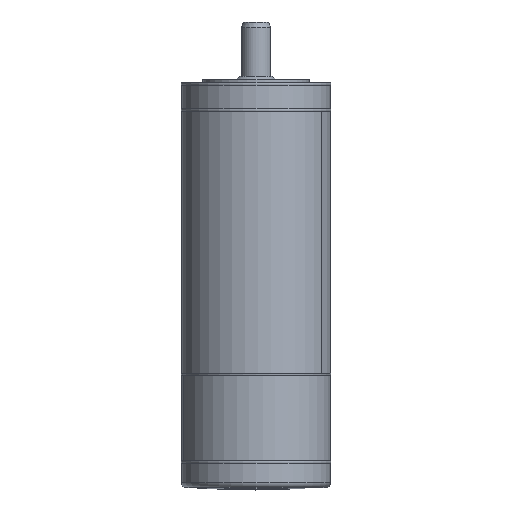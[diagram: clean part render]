
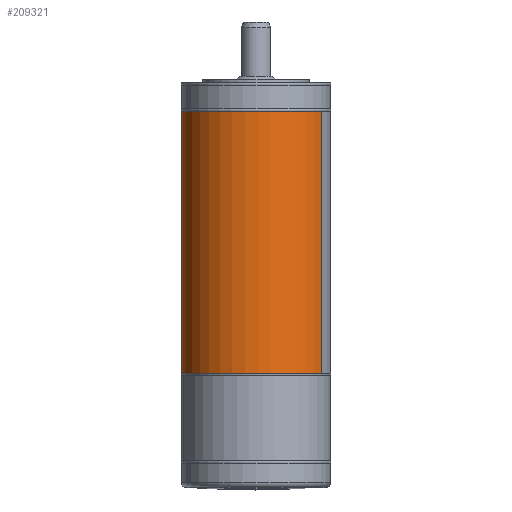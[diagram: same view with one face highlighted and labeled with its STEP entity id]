
A CAD part, front view. The second image highlights one B-rep face of the part: STEP entity #209321.
In plain terms, the highlighted cylindrical face has radius 49.06 mm (diameter 98.12 mm), a partial arc.
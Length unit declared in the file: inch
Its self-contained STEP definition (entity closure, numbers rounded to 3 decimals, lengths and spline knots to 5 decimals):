
#5126 = ORIENTED_EDGE ( 'NONE', *, *, #156324, .F. ) ;
#11844 = DIRECTION ( 'NONE',  ( 0.877, -0.481, 0. ) ) ;
#20081 = CARTESIAN_POINT ( 'NONE',  ( 0., 0., -7.512 ) ) ;
#22689 = VERTEX_POINT ( 'NONE', #73294 ) ;
#26532 = EDGE_CURVE ( 'NONE', #121000, #22689, #280138, .T. ) ;
#27999 = CARTESIAN_POINT ( 'NONE',  ( -1.69386, 0.92819, -7.512 ) ) ;
#28893 = ORIENTED_EDGE ( 'NONE', *, *, #88903, .T. ) ;
#38433 = VERTEX_POINT ( 'NONE', #51289 ) ;
#51289 = CARTESIAN_POINT ( 'NONE',  ( 1.69386, -0.92819, -7.512 ) ) ;
#60399 = EDGE_LOOP ( 'NONE', ( #150035, #28893, #102622, #5126 ) ) ;
#64093 = AXIS2_PLACEMENT_3D ( 'NONE', #96828, #235250, #11844 ) ;
#73294 = CARTESIAN_POINT ( 'NONE',  ( -1.69386, 0.92819, -0.728 ) ) ;
#76156 = CARTESIAN_POINT ( 'NONE',  ( -1.69386, 0.92819, 0.59277 ) ) ;
#76235 = VECTOR ( 'NONE', #79287, 39.37008 ) ;
#79287 = DIRECTION ( 'NONE',  ( 0., 0., 1. ) ) ;
#88903 = EDGE_CURVE ( 'NONE', #121000, #38433, #251996, .T. ) ;
#96828 = CARTESIAN_POINT ( 'NONE',  ( 0., 0., 0.59277 ) ) ;
#97267 = LINE ( 'NONE', #188069, #76235 ) ;
#102622 = ORIENTED_EDGE ( 'NONE', *, *, #273151, .T. ) ;
#110212 = CIRCLE ( 'NONE', #119836, 1.9315 ) ;
#119836 = AXIS2_PLACEMENT_3D ( 'NONE', #290141, #238158, #288660 ) ;
#121000 = VERTEX_POINT ( 'NONE', #27999 ) ;
#150035 = ORIENTED_EDGE ( 'NONE', *, *, #26532, .F. ) ;
#156324 = EDGE_CURVE ( 'NONE', #22689, #241880, #110212, .T. ) ;
#168221 = CYLINDRICAL_SURFACE ( 'NONE', #64093, 1.9315 ) ;
#168441 = DIRECTION ( 'NONE',  ( 0., 0., 1. ) ) ;
#188069 = CARTESIAN_POINT ( 'NONE',  ( 1.69386, -0.92819, 0.59277 ) ) ;
#209321 = ADVANCED_FACE ( 'NONE', ( #232302 ), #168221, .T. ) ;
#232302 = FACE_OUTER_BOUND ( 'NONE', #60399, .T. ) ;
#235250 = DIRECTION ( 'NONE',  ( 0., 0., 1. ) ) ;
#238158 = DIRECTION ( 'NONE',  ( 0., 0., 1. ) ) ;
#240736 = VECTOR ( 'NONE', #168441, 39.37008 ) ;
#241880 = VERTEX_POINT ( 'NONE', #257308 ) ;
#247089 = AXIS2_PLACEMENT_3D ( 'NONE', #20081, #291048, #292506 ) ;
#251996 = CIRCLE ( 'NONE', #247089, 1.9315 ) ;
#257308 = CARTESIAN_POINT ( 'NONE',  ( 1.69386, -0.92819, -0.728 ) ) ;
#273151 = EDGE_CURVE ( 'NONE', #38433, #241880, #97267, .T. ) ;
#280138 = LINE ( 'NONE', #76156, #240736 ) ;
#288660 = DIRECTION ( 'NONE',  ( 0.877, -0.481, 0. ) ) ;
#290141 = CARTESIAN_POINT ( 'NONE',  ( 0., 0., -0.728 ) ) ;
#291048 = DIRECTION ( 'NONE',  ( 0., 0., 1. ) ) ;
#292506 = DIRECTION ( 'NONE',  ( 0.877, -0.481, 0. ) ) ;
